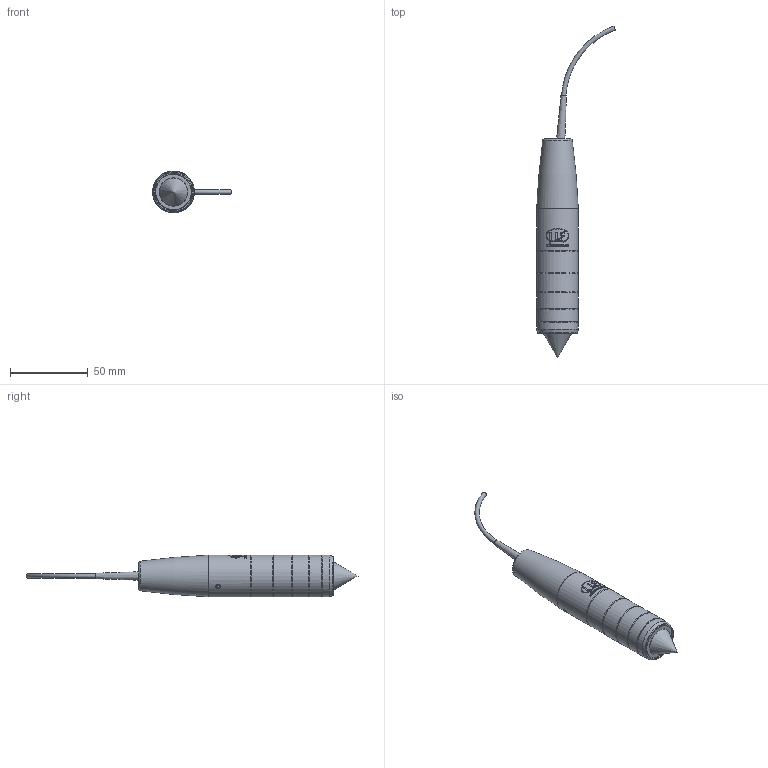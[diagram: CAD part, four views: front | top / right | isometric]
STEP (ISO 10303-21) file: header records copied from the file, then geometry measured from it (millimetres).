
FILE_DESCRIPTION (( 'STEP AP214' ), '1' );
FILE_NAME ('IFS2404-1.STEP', '2026-02-10T09:52:35', ( '' ), ( '' ), 'SwSTEP 2.0', 'SolidWorks 2022', '' );
FILE_SCHEMA (( 'AUTOMOTIVE_DESIGN' ));
Length unit declared in the file: millimetre
Products named in the file (1): IFS2404-1
Bounding box: 50.87 x 214.21 x 27 mm (x, y, z)
Volume: 65063.2 mm3; surface area: 13673.9 mm2
Topology: 2 solids, 4 shells, 79 faces, 389 edges, 344 vertices
Faces by surface type: cylinder 31, plane 27, cone 12, torus 9
Full cylindrical faces by diameter (mm): 0.05 x1, 2.5 x2, 14 x1, 23 x1, 25.714 x1, 26.9 x1, 27 x5
Entity records: 6121 total; most frequent: CARTESIAN_POINT 2739, ORIENTED_EDGE 672, DIRECTION 401, EDGE_CURVE 336, VERTEX_POINT 324, B_SPLINE_CURVE_WITH_KNOTS 175, AXIS2_PLACEMENT_3D 162, EDGE_LOOP 140
